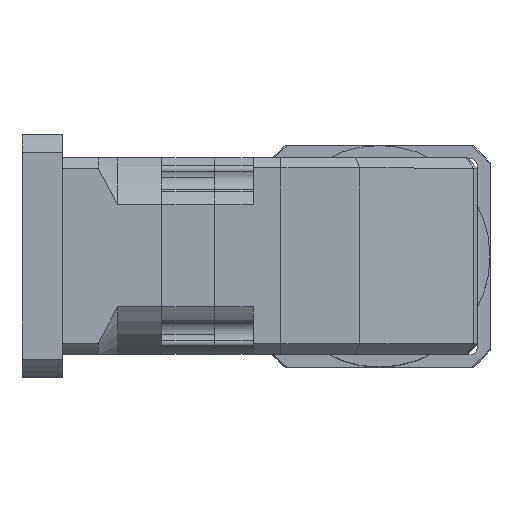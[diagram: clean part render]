
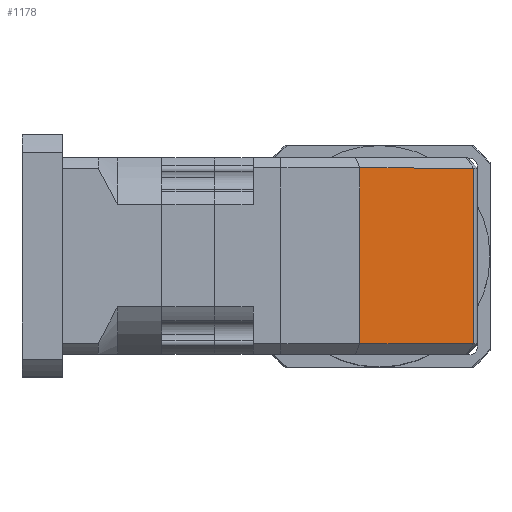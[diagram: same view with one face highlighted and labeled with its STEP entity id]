
A CAD part, top view. The second image highlights one B-rep face of the part: STEP entity #1178.
In plain terms, the highlighted planar face has unit normal (0.707, 0, 0.707).
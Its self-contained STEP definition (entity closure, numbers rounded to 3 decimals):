
#452 = LINE ( 'NONE', #9895, #7620 ) ;
#473 = VERTEX_POINT ( 'NONE', #7527 ) ;
#1178 = ADVANCED_FACE ( 'NONE', ( #15750 ), #4482, .F. ) ;
#1806 = DIRECTION ( 'NONE',  ( -0.707, 0., 0.707 ) ) ;
#2145 = EDGE_CURVE ( 'NONE', #15976, #16011, #6908, .T. ) ;
#2381 = ORIENTED_EDGE ( 'NONE', *, *, #7988, .T. ) ;
#2870 = DIRECTION ( 'NONE',  ( 0., -1., 0. ) ) ;
#2913 = DIRECTION ( 'NONE',  ( -0.707, 0., 0.707 ) ) ;
#2962 = DIRECTION ( 'NONE',  ( -0.707, 0., -0.707 ) ) ;
#2965 = LINE ( 'NONE', #7598, #9711 ) ;
#3008 = CARTESIAN_POINT ( 'NONE',  ( -14., -71., 309. ) ) ;
#4482 = PLANE ( 'NONE',  #6129 ) ;
#4514 = ORIENTED_EDGE ( 'NONE', *, *, #15425, .T. ) ;
#4767 = ORIENTED_EDGE ( 'NONE', *, *, #17082, .F. ) ;
#6129 = AXIS2_PLACEMENT_3D ( 'NONE', #3008, #2962, #2913 ) ;
#6908 = LINE ( 'NONE', #12275, #10506 ) ;
#6948 = CARTESIAN_POINT ( 'NONE',  ( 68.071, -63.5, 226.929 ) ) ;
#7087 = LINE ( 'NONE', #8022, #10259 ) ;
#7527 = CARTESIAN_POINT ( 'NONE',  ( -14., 63.5, 309. ) ) ;
#7598 = CARTESIAN_POINT ( 'NONE',  ( 68.071, 63.5, 226.929 ) ) ;
#7620 = VECTOR ( 'NONE', #1806, 1000. ) ;
#7976 = CARTESIAN_POINT ( 'NONE',  ( -14., -63.5, 309. ) ) ;
#7988 = EDGE_CURVE ( 'NONE', #15976, #473, #2965, .T. ) ;
#8022 = CARTESIAN_POINT ( 'NONE',  ( -14., -71., 309. ) ) ;
#9434 = DIRECTION ( 'NONE',  ( 0., -1., 0. ) ) ;
#9711 = VECTOR ( 'NONE', #17011, 1000. ) ;
#9895 = CARTESIAN_POINT ( 'NONE',  ( -14., -63.5, 309. ) ) ;
#10259 = VECTOR ( 'NONE', #9434, 1000. ) ;
#10506 = VECTOR ( 'NONE', #2870, 1000. ) ;
#11505 = VERTEX_POINT ( 'NONE', #7976 ) ;
#11587 = EDGE_LOOP ( 'NONE', ( #2381, #4514, #4767, #17117 ) ) ;
#12275 = CARTESIAN_POINT ( 'NONE',  ( 68.071, -71., 226.929 ) ) ;
#15425 = EDGE_CURVE ( 'NONE', #473, #11505, #7087, .T. ) ;
#15750 = FACE_OUTER_BOUND ( 'NONE', #11587, .T. ) ;
#15976 = VERTEX_POINT ( 'NONE', #16414 ) ;
#16011 = VERTEX_POINT ( 'NONE', #6948 ) ;
#16414 = CARTESIAN_POINT ( 'NONE',  ( 68.071, 63.5, 226.929 ) ) ;
#17011 = DIRECTION ( 'NONE',  ( -0.707, 0., 0.707 ) ) ;
#17082 = EDGE_CURVE ( 'NONE', #16011, #11505, #452, .T. ) ;
#17117 = ORIENTED_EDGE ( 'NONE', *, *, #2145, .F. ) ;
